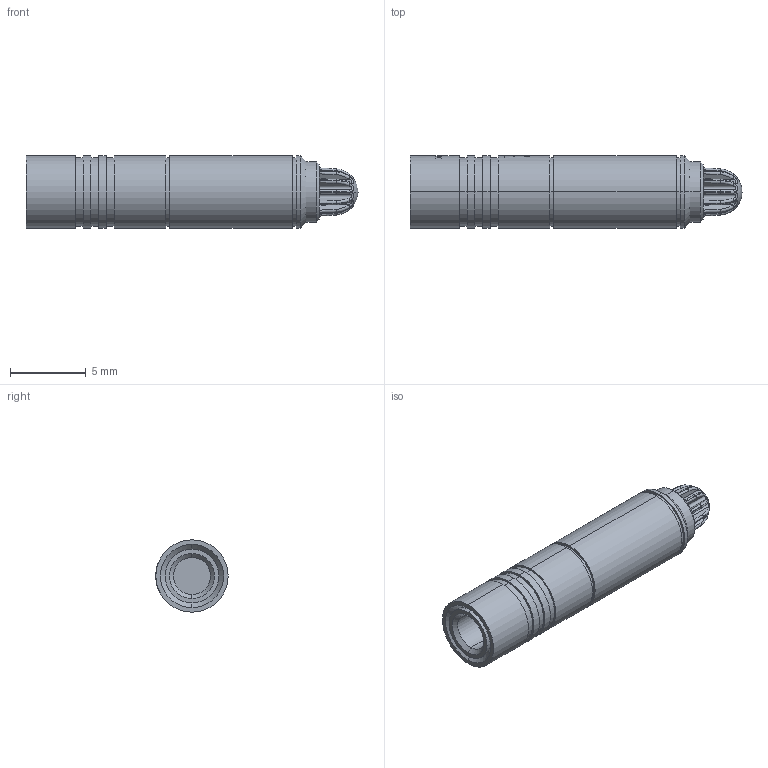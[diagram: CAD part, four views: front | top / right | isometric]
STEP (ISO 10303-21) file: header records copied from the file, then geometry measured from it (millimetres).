
FILE_DESCRIPTION (( 'STEP AP214' ), '1' );
FILE_NAME ('JEVA18------.STEP', '2021-04-20T12:15:03', ( '' ), ( '' ), 'SwSTEP 2.0', 'SolidWorks 2019', '' );
FILE_SCHEMA (( 'AUTOMOTIVE_DESIGN' ));
Length unit declared in the file: inch
Products named in the file (1): JEVA18------
Bounding box: 21.84 x 4.76 x 4.76 mm (x, y, z)
Volume: 330.5 mm3; surface area: 398.4 mm2
Topology: 1 solids, 1 shells, 387 faces, 1058 edges, 685 vertices
Faces by surface type: bspline 134, plane 122, cylinder 67, cone 38, torus 24, sphere 2
Entity records: 16963 total; most frequent: CARTESIAN_POINT 5937, ORIENTED_EDGE 2116, DIRECTION 1428, EDGE_CURVE 1058, VERTEX_POINT 685, AXIS2_PLACEMENT_3D 624, B_SPLINE_CURVE_WITH_KNOTS 508, EDGE_LOOP 423
